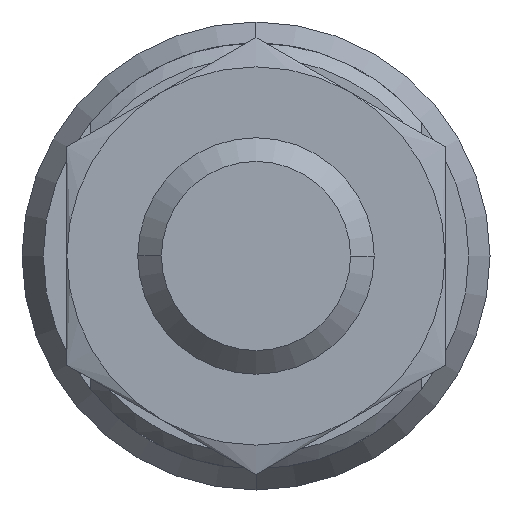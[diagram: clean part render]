
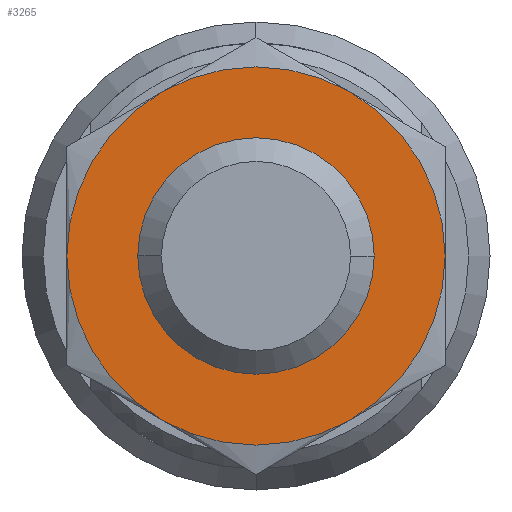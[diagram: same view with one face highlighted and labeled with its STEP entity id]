
A CAD part, left-side view. The second image highlights one B-rep face of the part: STEP entity #3265.
In plain terms, the highlighted planar face has unit normal (-1, 0, 0) as drawn and (0, 0, 1) by its records, which use the part's own axes.
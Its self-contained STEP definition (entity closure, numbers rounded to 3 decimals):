
#2749=CARTESIAN_POINT('',(0.,0.,2.7));
#2750=DIRECTION('',(0.,0.,1.));
#2751=DIRECTION('',(-0.5,-0.866,0.));
#2752=AXIS2_PLACEMENT_3D('',#2749,#2750,#2751);
#2757=CARTESIAN_POINT('',(0.,0.,2.7));
#2758=DIRECTION('',(0.,0.,-1.));
#2759=DIRECTION('',(-0.5,-0.866,0.));
#2760=AXIS2_PLACEMENT_3D('',#2757,#2758,#2759);
#2765=CARTESIAN_POINT('',(0.,0.,2.7));
#2766=DIRECTION('',(0.,0.,-1.));
#2767=DIRECTION('',(-1.,0.,0.));
#2768=AXIS2_PLACEMENT_3D('',#2765,#2766,#2767);
#2773=CARTESIAN_POINT('',(0.,0.,2.7));
#2774=DIRECTION('',(0.,0.,-1.));
#2775=DIRECTION('',(0.5,0.866,0.));
#2776=AXIS2_PLACEMENT_3D('',#2773,#2774,#2775);
#2781=CARTESIAN_POINT('',(0.,0.,2.7));
#2782=DIRECTION('',(0.,0.,-1.));
#2783=DIRECTION('',(1.,0.,0.));
#2784=AXIS2_PLACEMENT_3D('',#2781,#2782,#2783);
#2789=CARTESIAN_POINT('',(0.,0.,2.7));
#2790=DIRECTION('',(0.,0.,-1.));
#2791=DIRECTION('',(0.,-1.,0.));
#2792=AXIS2_PLACEMENT_3D('',#2789,#2790,#2791);
#2797=CARTESIAN_POINT('',(0.,0.,2.7));
#2798=DIRECTION('',(0.,0.,-1.));
#2799=DIRECTION('',(0.,1.,0.));
#2800=AXIS2_PLACEMENT_3D('',#2797,#2798,#2799);
#2805=CARTESIAN_POINT('',(0.,0.,2.7));
#2806=DIRECTION('',(0.,0.,1.));
#2807=DIRECTION('',(0.5,0.866,0.));
#2808=AXIS2_PLACEMENT_3D('',#2805,#2806,#2807);
#2931=CARTESIAN_POINT('',(-2.,-3.464,2.7));
#2932=CARTESIAN_POINT('',(-4.,0.,2.7));
#2933=VERTEX_POINT('',#2931);
#2934=VERTEX_POINT('',#2932);
#2935=CARTESIAN_POINT('',(-2.,3.464,2.7));
#2936=VERTEX_POINT('',#2935);
#2937=CARTESIAN_POINT('',(2.,3.464,2.7));
#2938=CARTESIAN_POINT('',(4.,0.,2.7));
#2939=VERTEX_POINT('',#2937);
#2940=VERTEX_POINT('',#2938);
#2941=CARTESIAN_POINT('',(2.,-3.464,2.7));
#2942=VERTEX_POINT('',#2941);
#2959=CARTESIAN_POINT('',(0.,-2.5,2.7));
#2960=CARTESIAN_POINT('',(0.,2.5,2.7));
#2961=VERTEX_POINT('',#2959);
#2962=VERTEX_POINT('',#2960);
#3245=CARTESIAN_POINT('',(0.,0.,2.7));
#3246=DIRECTION('',(0.,0.,1.));
#3247=DIRECTION('',(1.,0.,0.));
#3248=AXIS2_PLACEMENT_3D('',#3245,#3246,#3247);
#3249=PLANE('',#3248);
#3250=ORIENTED_EDGE('',*,*,#3240,.F.);
#3251=ORIENTED_EDGE('',*,*,#3202,.T.);
#3252=ORIENTED_EDGE('',*,*,#3190,.T.);
#3254=ORIENTED_EDGE('',*,*,#3253,.F.);
#3255=ORIENTED_EDGE('',*,*,#3214,.T.);
#3256=ORIENTED_EDGE('',*,*,#3226,.T.);
#3257=EDGE_LOOP('',(#3250,#3251,#3252,#3254,#3255,#3256));
#3258=FACE_OUTER_BOUND('',#3257,.F.);
#3260=ORIENTED_EDGE('',*,*,#3259,.F.);
#3262=ORIENTED_EDGE('',*,*,#3261,.F.);
#3263=EDGE_LOOP('',(#3260,#3262));
#3264=FACE_BOUND('',#3263,.F.);
#2753=CIRCLE('',#2752,4.);
#2761=CIRCLE('',#2760,4.);
#2769=CIRCLE('',#2768,4.);
#2777=CIRCLE('',#2776,4.);
#2785=CIRCLE('',#2784,4.);
#2793=CIRCLE('',#2792,2.5);
#2801=CIRCLE('',#2800,2.5);
#2809=CIRCLE('',#2808,4.);
#3190=EDGE_CURVE('',#2934,#2936,#2769,.T.);
#3202=EDGE_CURVE('',#2933,#2934,#2761,.T.);
#3214=EDGE_CURVE('',#2939,#2940,#2777,.T.);
#3226=EDGE_CURVE('',#2940,#2942,#2785,.T.);
#3240=EDGE_CURVE('',#2933,#2942,#2753,.T.);
#3253=EDGE_CURVE('',#2939,#2936,#2809,.T.);
#3259=EDGE_CURVE('',#2961,#2962,#2793,.T.);
#3261=EDGE_CURVE('',#2962,#2961,#2801,.T.);
#3265=ADVANCED_FACE('',(#3258,#3264),#3249,.T.);
